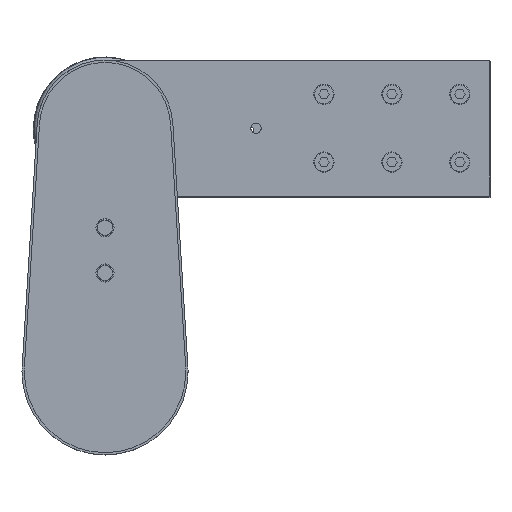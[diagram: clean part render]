
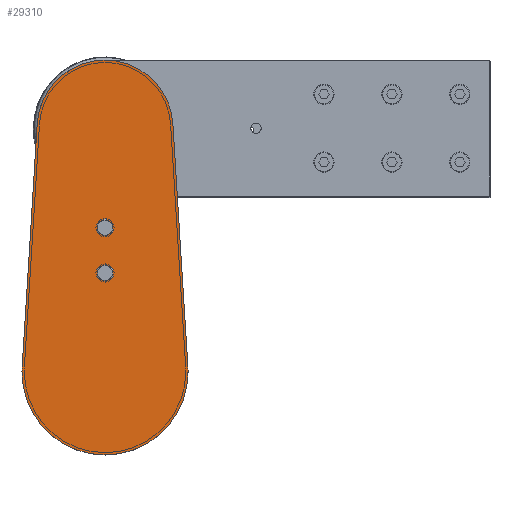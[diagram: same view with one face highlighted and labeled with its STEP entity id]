
A CAD part, top view. The second image highlights one B-rep face of the part: STEP entity #29310.
In plain terms, the highlighted planar face has unit normal (0, 0, 1) as drawn and (0, 0, -1) by its records, which use the part's own axes.
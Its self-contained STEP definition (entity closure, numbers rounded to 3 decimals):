
#784 = CARTESIAN_POINT ( 'NONE',  ( 0., 65.5, 0. ) ) ;
#785 = DIRECTION ( 'NONE',  ( 0., 0., -1. ) ) ;
#787 = DIRECTION ( 'NONE',  ( 1., 0., 0. ) ) ;
#823 = CARTESIAN_POINT ( 'NONE',  ( 0., 95.5, 0. ) ) ;
#825 = DIRECTION ( 'NONE',  ( 0., 0., -1. ) ) ;
#827 = DIRECTION ( 'NONE',  ( 1., 0., 0. ) ) ;
#993 = CARTESIAN_POINT ( 'NONE',  ( 0., 65.5, 0. ) ) ;
#995 = DIRECTION ( 'NONE',  ( 0., 0., -1. ) ) ;
#997 = DIRECTION ( 'NONE',  ( 1., 0., 0. ) ) ;
#1011 = CARTESIAN_POINT ( 'NONE',  ( 0., 95.5, 0. ) ) ;
#1013 = DIRECTION ( 'NONE',  ( 0., 0., -1. ) ) ;
#1015 = DIRECTION ( 'NONE',  ( 1., 0., 0. ) ) ;
#9307 = EDGE_CURVE ( 'NONE', #34773, #34731, #15646, .T. ) ;
#9331 = EDGE_CURVE ( 'NONE', #34737, #34783, #17111, .T. ) ;
#9332 = EDGE_CURVE ( 'NONE', #34731, #34709, #17110, .T. ) ;
#9507 = EDGE_CURVE ( 'NONE', #34783, #34912, #46667, .T. ) ;
#9526 = EDGE_CURVE ( 'NONE', #34709, #34737, #46654, .T. ) ;
#11156 = CARTESIAN_POINT ( 'NONE',  ( 0., 0., 0. ) ) ;
#11157 = DIRECTION ( 'NONE',  ( 0., 0., 1. ) ) ;
#11159 = DIRECTION ( 'NONE',  ( 1., 0., 0. ) ) ;
#11336 = CARTESIAN_POINT ( 'NONE',  ( 0., 161.5, 0. ) ) ;
#11337 = DIRECTION ( 'NONE',  ( 0., 0., 1. ) ) ;
#11339 = DIRECTION ( 'NONE',  ( 1., 0., 0. ) ) ;
#13349 = ORIENTED_EDGE ( 'NONE', *, *, #17643, .F. ) ;
#13351 = ORIENTED_EDGE ( 'NONE', *, *, #17671, .F. ) ;
#13353 = ORIENTED_EDGE ( 'NONE', *, *, #17637, .F. ) ;
#13355 = ORIENTED_EDGE ( 'NONE', *, *, #17668, .F. ) ;
#13357 = ORIENTED_EDGE ( 'NONE', *, *, #9526, .F. ) ;
#13359 = ORIENTED_EDGE ( 'NONE', *, *, #9332, .F. ) ;
#13361 = ORIENTED_EDGE ( 'NONE', *, *, #9307, .F. ) ;
#13363 = ORIENTED_EDGE ( 'NONE', *, *, #51678, .F. ) ;
#13365 = ORIENTED_EDGE ( 'NONE', *, *, #9507, .F. ) ;
#13367 = ORIENTED_EDGE ( 'NONE', *, *, #9331, .F. ) ;
#15632 = VECTOR ( 'NONE', #17119, 1000. ) ;
#15646 = CIRCLE ( 'NONE', #15712, 55. ) ;
#15712 = AXIS2_PLACEMENT_3D ( 'NONE', #17044, #17045, #17046 ) ;
#15724 = VECTOR ( 'NONE', #17121, 1000. ) ;
#17044 = CARTESIAN_POINT ( 'NONE',  ( 0., 0., 0. ) ) ;
#17045 = DIRECTION ( 'NONE',  ( 0., 0., 1. ) ) ;
#17046 = DIRECTION ( 'NONE',  ( 1., 0., 0. ) ) ;
#17110 = LINE ( 'NONE', #17120, #15724 ) ;
#17111 = LINE ( 'NONE', #17117, #15632 ) ;
#17117 = CARTESIAN_POINT ( 'NONE',  ( -44.914, 164.286, 0. ) ) ;
#17119 = DIRECTION ( 'NONE',  ( -0.062, -0.998, 0. ) ) ;
#17120 = CARTESIAN_POINT ( 'NONE',  ( 44.914, 164.286, 0. ) ) ;
#17121 = DIRECTION ( 'NONE',  ( -0.062, 0.998, 0. ) ) ;
#17637 = EDGE_CURVE ( 'NONE', #34793, #34710, #51802, .T. ) ;
#17643 = EDGE_CURVE ( 'NONE', #34701, #34593, #18780, .T. ) ;
#17668 = EDGE_CURVE ( 'NONE', #34710, #34793, #18795, .T. ) ;
#17671 = EDGE_CURVE ( 'NONE', #34593, #34701, #18962, .T. ) ;
#18776 = AXIS2_PLACEMENT_3D ( 'NONE', #823, #825, #827 ) ;
#18780 = CIRCLE ( 'NONE', #18776, 3.5 ) ;
#18795 = CIRCLE ( 'NONE', #18801, 3.5 ) ;
#18801 = AXIS2_PLACEMENT_3D ( 'NONE', #993, #995, #997 ) ;
#18907 = AXIS2_PLACEMENT_3D ( 'NONE', #1011, #1013, #1015 ) ;
#18962 = CIRCLE ( 'NONE', #18907, 3.5 ) ;
#22934 = EDGE_LOOP ( 'NONE', ( #13349, #13351 ) ) ;
#22939 = EDGE_LOOP ( 'NONE', ( #13357, #13359, #13361, #13363, #13365, #13367 ) ) ;
#22940 = EDGE_LOOP ( 'NONE', ( #13353, #13355 ) ) ;
#29310 = ADVANCED_FACE ( 'NONE', ( #40733, #40729, #40735 ), #40736, .F. ) ;
#34593 = VERTEX_POINT ( 'NONE', #43567 ) ;
#34701 = VERTEX_POINT ( 'NONE', #43777 ) ;
#34709 = VERTEX_POINT ( 'NONE', #43792 ) ;
#34710 = VERTEX_POINT ( 'NONE', #43793 ) ;
#34731 = VERTEX_POINT ( 'NONE', #43832 ) ;
#34737 = VERTEX_POINT ( 'NONE', #43844 ) ;
#34773 = VERTEX_POINT ( 'NONE', #43910 ) ;
#34783 = VERTEX_POINT ( 'NONE', #43929 ) ;
#34793 = VERTEX_POINT ( 'NONE', #43948 ) ;
#34912 = VERTEX_POINT ( 'NONE', #44169 ) ;
#36090 = CARTESIAN_POINT ( 'NONE',  ( 0., 0., 0. ) ) ;
#36091 = DIRECTION ( 'NONE',  ( 0., 0., 1. ) ) ;
#36092 = DIRECTION ( 'NONE',  ( 1., 0., 0. ) ) ;
#40728 = DIRECTION ( 'NONE',  ( 0., 0., 1. ) ) ;
#40729 = FACE_BOUND ( 'NONE', #22940, .T. ) ;
#40732 = CARTESIAN_POINT ( 'NONE',  ( 0., 161.5, 0. ) ) ;
#40733 = FACE_BOUND ( 'NONE', #22934, .T. ) ;
#40735 = FACE_OUTER_BOUND ( 'NONE', #22939, .T. ) ;
#40736 = PLANE ( 'NONE',  #46749 ) ;
#40738 = DIRECTION ( 'NONE',  ( 1., 0., 0. ) ) ;
#42714 = CIRCLE ( 'NONE', #42717, 55. ) ;
#42717 = AXIS2_PLACEMENT_3D ( 'NONE', #36090, #36091, #36092 ) ;
#43567 = CARTESIAN_POINT ( 'NONE',  ( -3.5, 95.5, 0. ) ) ;
#43777 = CARTESIAN_POINT ( 'NONE',  ( 3.5, 95.5, 0. ) ) ;
#43792 = CARTESIAN_POINT ( 'NONE',  ( 44.914, 164.286, 0. ) ) ;
#43793 = CARTESIAN_POINT ( 'NONE',  ( -3.5, 65.5, 0. ) ) ;
#43832 = CARTESIAN_POINT ( 'NONE',  ( 54.894, 3.406, 0. ) ) ;
#43844 = CARTESIAN_POINT ( 'NONE',  ( -44.914, 164.286, 0. ) ) ;
#43910 = CARTESIAN_POINT ( 'NONE',  ( 55., 0., 0. ) ) ;
#43929 = CARTESIAN_POINT ( 'NONE',  ( -54.894, 3.406, 0. ) ) ;
#43948 = CARTESIAN_POINT ( 'NONE',  ( 3.5, 65.5, 0. ) ) ;
#44169 = CARTESIAN_POINT ( 'NONE',  ( -55., 0., 0. ) ) ;
#46601 = AXIS2_PLACEMENT_3D ( 'NONE', #11156, #11157, #11159 ) ;
#46654 = CIRCLE ( 'NONE', #46656, 45. ) ;
#46656 = AXIS2_PLACEMENT_3D ( 'NONE', #11336, #11337, #11339 ) ;
#46667 = CIRCLE ( 'NONE', #46601, 55. ) ;
#46749 = AXIS2_PLACEMENT_3D ( 'NONE', #40732, #40728, #40738 ) ;
#51678 = EDGE_CURVE ( 'NONE', #34912, #34773, #42714, .T. ) ;
#51802 = CIRCLE ( 'NONE', #51804, 3.5 ) ;
#51804 = AXIS2_PLACEMENT_3D ( 'NONE', #784, #785, #787 ) ;
